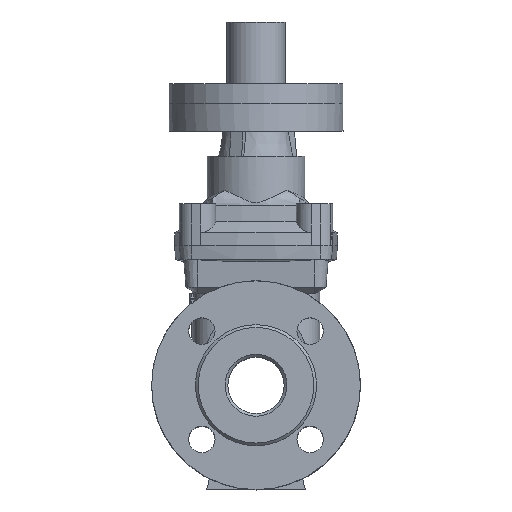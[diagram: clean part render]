
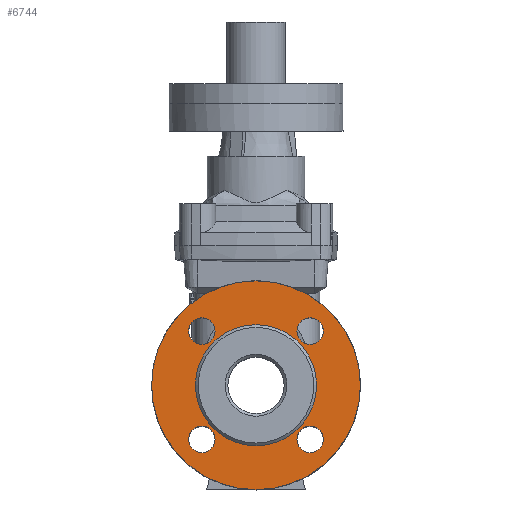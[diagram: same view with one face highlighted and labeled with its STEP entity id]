
A CAD part, top view. The second image highlights one B-rep face of the part: STEP entity #6744.
In plain terms, the highlighted planar face has unit normal (0, 0, 1).
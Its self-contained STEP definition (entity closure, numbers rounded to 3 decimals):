
#410 = ORIENTED_EDGE ( 'NONE', *, *, #5199, .F. ) ;
#446 = ORIENTED_EDGE ( 'NONE', *, *, #5191, .F. ) ;
#449 = ORIENTED_EDGE ( 'NONE', *, *, #5260, .T. ) ;
#453 = ORIENTED_EDGE ( 'NONE', *, *, #5230, .F. ) ;
#456 = ORIENTED_EDGE ( 'NONE', *, *, #5228, .F. ) ;
#474 = ORIENTED_EDGE ( 'NONE', *, *, #5227, .T. ) ;
#672 = AXIS2_PLACEMENT_3D ( 'NONE', #8160, #8161, #8162 ) ;
#674 = AXIS2_PLACEMENT_3D ( 'NONE', #8208, #8209, #8210 ) ;
#684 = AXIS2_PLACEMENT_3D ( 'NONE', #8288, #8289, #8290 ) ;
#685 = AXIS2_PLACEMENT_3D ( 'NONE', #8291, #8292, #8293 ) ;
#686 = AXIS2_PLACEMENT_3D ( 'NONE', #8296, #8297, #8298 ) ;
#699 = AXIS2_PLACEMENT_3D ( 'NONE', #7415, #7416, #7417 ) ;
#3224 = FACE_BOUND ( 'NONE', #7240, .T. ) ;
#3225 = FACE_BOUND ( 'NONE', #7185, .T. ) ;
#3226 = FACE_BOUND ( 'NONE', #7217, .T. ) ;
#3227 = FACE_OUTER_BOUND ( 'NONE', #7188, .T. ) ;
#3228 = FACE_BOUND ( 'NONE', #7235, .T. ) ;
#3229 = FACE_BOUND ( 'NONE', #7184, .T. ) ;
#4304 = DIRECTION ( 'NONE',  ( 0., 0., 1. ) ) ;
#4310 = PLANE ( 'NONE',  #4480 ) ;
#4311 = CARTESIAN_POINT ( 'NONE',  ( 0., 75., 68. ) ) ;
#4313 = DIRECTION ( 'NONE',  ( -1., 0., 0. ) ) ;
#4480 = AXIS2_PLACEMENT_3D ( 'NONE', #4311, #4304, #4313 ) ;
#4744 = CARTESIAN_POINT ( 'NONE',  ( -48.391, 38.891, 68. ) ) ;
#4746 = CARTESIAN_POINT ( 'NONE',  ( -48.391, -38.891, 68. ) ) ;
#4751 = CARTESIAN_POINT ( 'NONE',  ( 48.391, 38.891, 68. ) ) ;
#4752 = CARTESIAN_POINT ( 'NONE',  ( -75., 0., 68. ) ) ;
#4753 = CARTESIAN_POINT ( 'NONE',  ( 43.5, 0., 68. ) ) ;
#4758 = CARTESIAN_POINT ( 'NONE',  ( 48.391, -38.891, 68. ) ) ;
#4837 = VERTEX_POINT ( 'NONE', #4744 ) ;
#4839 = VERTEX_POINT ( 'NONE', #4746 ) ;
#4844 = VERTEX_POINT ( 'NONE', #4751 ) ;
#4845 = VERTEX_POINT ( 'NONE', #4752 ) ;
#4846 = VERTEX_POINT ( 'NONE', #4753 ) ;
#4851 = VERTEX_POINT ( 'NONE', #4758 ) ;
#5191 = EDGE_CURVE ( 'NONE', #4837, #4837, #6068, .T. ) ;
#5199 = EDGE_CURVE ( 'NONE', #4839, #4839, #6074, .T. ) ;
#5227 = EDGE_CURVE ( 'NONE', #4844, #4844, #6112, .T. ) ;
#5228 = EDGE_CURVE ( 'NONE', #4845, #4845, #6114, .T. ) ;
#5230 = EDGE_CURVE ( 'NONE', #4846, #4846, #6104, .T. ) ;
#5260 = EDGE_CURVE ( 'NONE', #4851, #4851, #6182, .T. ) ;
#6068 = CIRCLE ( 'NONE', #672, 9.5 ) ;
#6074 = CIRCLE ( 'NONE', #674, 9.5 ) ;
#6104 = CIRCLE ( 'NONE', #686, 43.5 ) ;
#6112 = CIRCLE ( 'NONE', #684, 9.5 ) ;
#6114 = CIRCLE ( 'NONE', #685, 75. ) ;
#6182 = CIRCLE ( 'NONE', #699, 9.5 ) ;
#6744 = ADVANCED_FACE ( 'NONE', ( #3224, #3228, #3226, #3227, #3225, #3229 ), #4310, .T. ) ;
#7184 = EDGE_LOOP ( 'NONE', ( #449 ) ) ;
#7185 = EDGE_LOOP ( 'NONE', ( #410 ) ) ;
#7188 = EDGE_LOOP ( 'NONE', ( #456 ) ) ;
#7217 = EDGE_LOOP ( 'NONE', ( #453 ) ) ;
#7235 = EDGE_LOOP ( 'NONE', ( #446 ) ) ;
#7240 = EDGE_LOOP ( 'NONE', ( #474 ) ) ;
#7415 = CARTESIAN_POINT ( 'NONE',  ( 38.891, -38.891, 68. ) ) ;
#7416 = DIRECTION ( 'NONE',  ( 0., 0., -1. ) ) ;
#7417 = DIRECTION ( 'NONE',  ( 1., 0., 0. ) ) ;
#8160 = CARTESIAN_POINT ( 'NONE',  ( -38.891, 38.891, 68. ) ) ;
#8161 = DIRECTION ( 'NONE',  ( 0., 0., 1. ) ) ;
#8162 = DIRECTION ( 'NONE',  ( -1., 0., 0. ) ) ;
#8208 = CARTESIAN_POINT ( 'NONE',  ( -38.891, -38.891, 68. ) ) ;
#8209 = DIRECTION ( 'NONE',  ( 0., 0., 1. ) ) ;
#8210 = DIRECTION ( 'NONE',  ( -1., 0., 0. ) ) ;
#8288 = CARTESIAN_POINT ( 'NONE',  ( 38.891, 38.891, 68. ) ) ;
#8289 = DIRECTION ( 'NONE',  ( 0., 0., -1. ) ) ;
#8290 = DIRECTION ( 'NONE',  ( 1., 0., 0. ) ) ;
#8291 = CARTESIAN_POINT ( 'NONE',  ( 0., 0., 68. ) ) ;
#8292 = DIRECTION ( 'NONE',  ( 0., 0., -1. ) ) ;
#8293 = DIRECTION ( 'NONE',  ( -1., 0., 0. ) ) ;
#8296 = CARTESIAN_POINT ( 'NONE',  ( 0., 0., 68. ) ) ;
#8297 = DIRECTION ( 'NONE',  ( 0., 0., 1. ) ) ;
#8298 = DIRECTION ( 'NONE',  ( 1., 0., 0. ) ) ;
